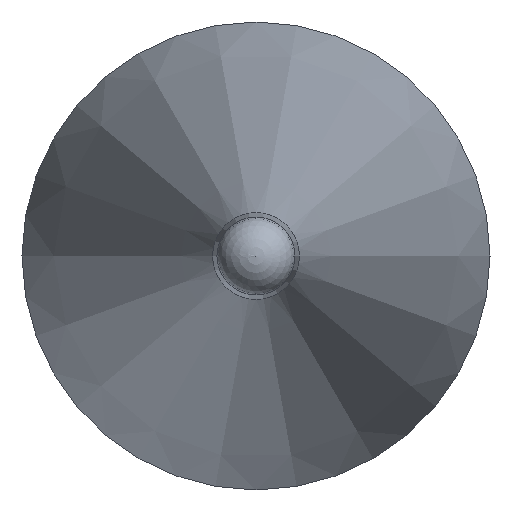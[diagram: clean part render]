
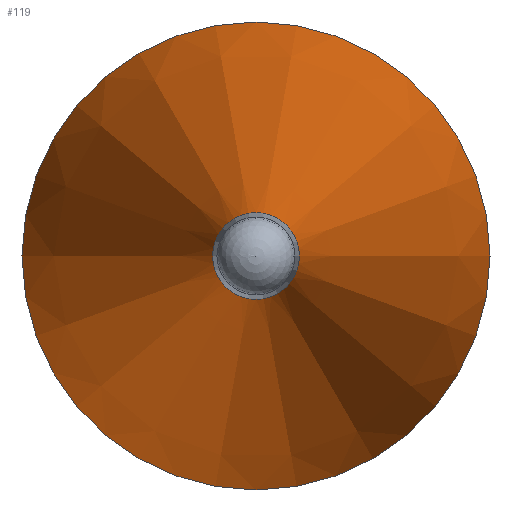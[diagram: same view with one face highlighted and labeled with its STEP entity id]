
A CAD part, left-side view. The second image highlights one B-rep face of the part: STEP entity #119.
In plain terms, the highlighted conical face has half-angle 12 degrees and reference radius 3 mm.
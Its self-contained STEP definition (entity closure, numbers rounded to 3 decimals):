
#97=CONICAL_SURFACE('',#194,3.,12.);
#106=FACE_BOUND('',#134,.T.);
#107=FACE_BOUND('',#135,.T.);
#119=ADVANCED_FACE('',(#106,#107),#97,.T.);
#134=EDGE_LOOP('',(#150));
#135=EDGE_LOOP('',(#151));
#150=ORIENTED_EDGE('',*,*,#172,.F.);
#151=ORIENTED_EDGE('',*,*,#173,.T.);
#164=VERTEX_POINT('',#249);
#165=VERTEX_POINT('',#252);
#172=EDGE_CURVE('',#164,#164,#180,.T.);
#173=EDGE_CURVE('',#165,#165,#181,.T.);
#180=CIRCLE('',#191,0.557);
#181=CIRCLE('',#193,3.);
#191=AXIS2_PLACEMENT_3D('',#248,#215,#216);
#193=AXIS2_PLACEMENT_3D('',#251,#219,#220);
#194=AXIS2_PLACEMENT_3D('',#253,#221,#222);
#215=DIRECTION('',(-1.,0.,0.));
#216=DIRECTION('',(0.,-1.,0.));
#219=DIRECTION('',(-1.,0.,0.));
#220=DIRECTION('',(0.,-1.,0.));
#221=DIRECTION('',(1.,0.,0.));
#222=DIRECTION('',(0.,1.,0.));
#248=CARTESIAN_POINT('',(7899.912,6103.288,0.));
#249=CARTESIAN_POINT('',(7899.912,6102.731,0.));
#251=CARTESIAN_POINT('',(7911.407,6103.288,0.));
#252=CARTESIAN_POINT('',(7911.407,6100.288,0.));
#253=CARTESIAN_POINT('',(7911.407,6103.288,0.));
